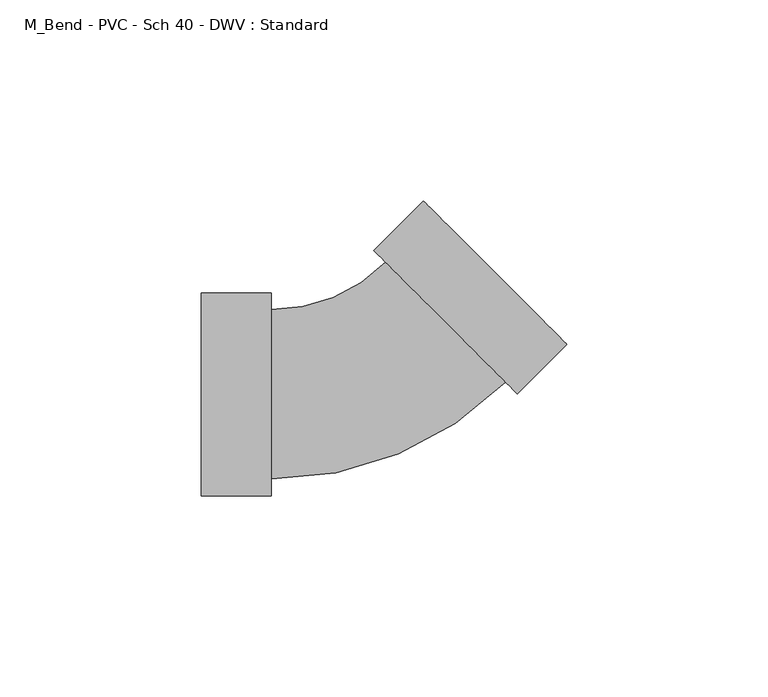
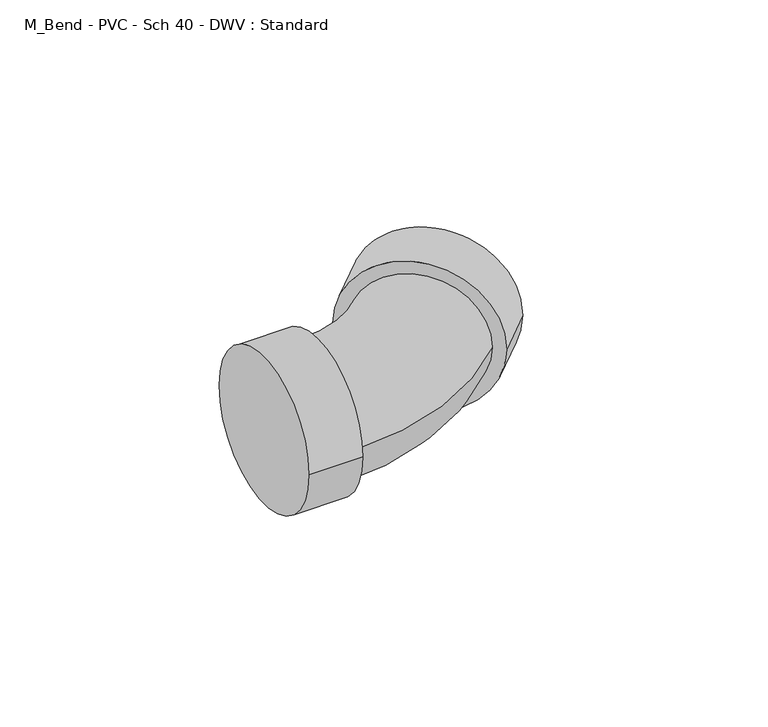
"""IFC4 building model written with IfcOpenShell, lengths in millimetres: pipe fitting geometry, M_Bend - PVC - Sch 40 - DWV : Standard."""

import ifcopenshell
import ifcopenshell.guid

model = None  # the IFC model being written
_history = None  # IfcOwnerHistory: only IFC2X3 demands one
_inside = {}  # id of a spatial element -> (the spatial element, [elements in it])
_under = {}  # id of a project, library or spatial element -> (it, [spatial elements below it])
_declared = {}  # id of a project -> (the project, [libraries it declares])
_typed = {}  # id of a type object -> (the type object, [elements of that type])
_made_of = {}  # id of a material, layer set ... -> (it, [elements and type objects made of it])


def new_model(schema):
    """Start an empty IFC model of exactly this schema.

    Asked for "IFC4X3", IfcOpenShell would pick the latest addendum, in which some entities
    have other attributes; the version numbers below select the first issue.
    IFC2X3 requires an IfcOwnerHistory on every rooted entity: one is made here for all.
    """
    global model, _history
    if schema == "IFC4X3":
        model = ifcopenshell.file(schema_version=(4, 3, 0, 0))
    else:
        model = ifcopenshell.file(schema=schema)
    _inside.clear()
    _under.clear()
    _declared.clear()
    _typed.clear()
    _made_of.clear()
    _history = None
    if model.schema == "IFC2X3":
        org = make("IfcOrganization", Name="unknown")
        user = make(
            "IfcPersonAndOrganization",
            ThePerson=make("IfcPerson", FamilyName="unknown"),
            TheOrganization=org,
        )
        app = make(
            "IfcApplication",
            ApplicationDeveloper=org,
            Version="unknown",
            ApplicationFullName="unknown",
            ApplicationIdentifier="unknown",
        )
        _history = make(
            "IfcOwnerHistory",
            OwningUser=user,
            OwningApplication=app,
            ChangeAction="ADDED",
            CreationDate=0,
        )
    return model


def make(cls, **values):
    """One entity of the class cls with the attributes given. An attribute that is None is left unset."""
    return model.create_entity(
        cls, **{name: value for name, value in values.items() if value is not None}
    )


def rooted(cls, **values):
    """An entity with a GlobalId (a new one), such as an element, a storey or a relation."""
    return make(cls, GlobalId=ifcopenshell.guid.new(), OwnerHistory=_history, **values)


def si_unit(unit_type, name, prefix=None):
    """IfcSIUnit, for example si_unit("LENGTHUNIT", "METRE", prefix="MILLI")."""
    return make("IfcSIUnit", UnitType=unit_type, Prefix=prefix, Name=name)


def assignment(units):
    """IfcUnitAssignment: the units of a project."""
    return None if units is None else make("IfcUnitAssignment", Units=units)


def point(xyz):
    """IfcCartesianPoint."""
    return None if xyz is None else make("IfcCartesianPoint", Coordinates=xyz)


def direction(xyz):
    """IfcDirection."""
    return None if xyz is None else make("IfcDirection", DirectionRatios=xyz)


def frame(location, z_axis=None, x_axis=None):
    """IfcAxis2Placement3D, a coordinate frame: its origin and axes. An axis left out is left unset."""
    return make(
        "IfcAxis2Placement3D",
        Location=point(location),
        Axis=direction(z_axis),
        RefDirection=direction(x_axis),
    )


def origin():
    """The frame at (0, 0, 0) with its axes left unset."""
    return frame((0.0, 0.0, 0.0))


def place(relative_to, where):
    """IfcLocalPlacement: puts the frame where relative to a parent placement (None: the world)."""
    return make(
        "IfcLocalPlacement", PlacementRelTo=relative_to, RelativePlacement=where
    )


def context(
    kind, dimensions, precision=None, world=None, true_north=None, identifier=None
):
    """IfcGeometricRepresentationContext, for example the 3D "Model" context."""
    return make(
        "IfcGeometricRepresentationContext",
        ContextIdentifier=identifier,
        ContextType=kind,
        CoordinateSpaceDimension=dimensions,
        Precision=precision,
        WorldCoordinateSystem=world,
        TrueNorth=true_north,
    )


def project(units=None, contexts=None):
    """IfcProject with its units and contexts."""
    return rooted(
        "IfcProject",
        Name="project",
        RepresentationContexts=contexts,
        UnitsInContext=assignment(units),
    )


def spatial(cls, under=None, at=None, **own):
    """A site, building, storey or space (cls), placed at a placement, below another one or the project."""
    s = rooted(cls, ObjectPlacement=at, **own)
    if under is not None:
        _under.setdefault(under.id(), (under, []))[1].append(s)
    return s


def circle_curve(where, radius):
    """IfcCircle in the frame where."""
    return make("IfcCircle", Position=where, Radius=radius)


def ellipse_curve(where, semi_axis1, semi_axis2):
    """IfcEllipse in the frame where."""
    return make(
        "IfcEllipse", Position=where, SemiAxis1=semi_axis1, SemiAxis2=semi_axis2
    )


def trimmed(basis, trim1, trim2, sense, master):
    """IfcTrimmedCurve: the piece of a basis curve between two trims."""
    return make(
        "IfcTrimmedCurve",
        BasisCurve=basis,
        Trim1=trim1,
        Trim2=trim2,
        SenseAgreement=sense,
        MasterRepresentation=master,
    )


def shape(context_of_items, identifier, shape_type, items):
    """IfcShapeRepresentation: the items that make up one representation, for example the "Body"."""
    return make(
        "IfcShapeRepresentation",
        ContextOfItems=context_of_items,
        RepresentationIdentifier=identifier,
        RepresentationType=shape_type,
        Items=items,
    )


def source(mapping_origin, context_of_items, identifier, shape_type, items):
    """IfcRepresentationMap: a shape defined once, which mapped items show again and again."""
    return make(
        "IfcRepresentationMap",
        MappingOrigin=mapping_origin,
        MappedRepresentation=shape(context_of_items, identifier, shape_type, items),
    )


def transform(
    local_origin,
    x_axis=None,
    y_axis=None,
    z_axis=None,
    scale=None,
    scale2=None,
    scale3=None,
    uniform=True,
):
    """IfcCartesianTransformationOperator3D, or its non-uniform kind. x_axis, y_axis, z_axis: its Axis1, 2, 3."""
    if uniform:
        return make(
            "IfcCartesianTransformationOperator3D",
            Axis1=direction(x_axis),
            Axis2=direction(y_axis),
            LocalOrigin=point(local_origin),
            Scale=scale,
            Axis3=direction(z_axis),
        )
    return make(
        "IfcCartesianTransformationOperator3DnonUniform",
        Axis1=direction(x_axis),
        Axis2=direction(y_axis),
        LocalOrigin=point(local_origin),
        Scale=scale,
        Axis3=direction(z_axis),
        Scale2=scale2,
        Scale3=scale3,
    )


def mapped(mapping_source, mapping_target):
    """IfcMappedItem: shows the shape of a source again, moved by a transform."""
    return make(
        "IfcMappedItem", MappingSource=mapping_source, MappingTarget=mapping_target
    )


def made_of(thing, what):
    """Note that an element or type object is made of a material, layer set ...; save() writes the relation."""
    if what is not None:
        _made_of.setdefault(what.id(), (what, []))[1].append(thing)
    return thing


def element(
    cls,
    number,
    at=None,
    inside=None,
    cuts=None,
    type_object=None,
    material=None,
    context=None,
    identifier="Body",
    shape_type=None,
    held_by="IfcProductDefinitionShape",
    body=None,
    shapes=None,
    **own,
):
    """One element of the class cls, such as IfcWall. Its Tag is "e" and its number.

    at: its placement. inside: the storey or other place that contains it. cuts: it is an
    opening in that element (IfcRelVoidsElement). A single representation is given by context,
    identifier, shape_type and body (its items); several are given by shapes. held_by: the class
    of the entity that holds the representations. save() writes the other relations.
    """
    e = rooted(cls, Tag="e%d" % number, ObjectPlacement=at, **own)
    if body is not None:
        shapes = [shape(context, identifier, shape_type, body)]
    if shapes is not None:
        e.Representation = make(held_by, Representations=shapes)
    if inside is not None:
        _inside.setdefault(inside.id(), (inside, []))[1].append(e)
    if cuts is not None:
        rooted(
            "IfcRelVoidsElement", RelatingBuildingElement=cuts, RelatedOpeningElement=e
        )
    if type_object is not None:
        _typed.setdefault(type_object.id(), (type_object, []))[1].append(e)
    return made_of(e, material)


def aggregate(whole, parts):
    """IfcRelAggregates: a whole, such as a stair, and the parts it consists of."""
    return rooted("IfcRelAggregates", RelatingObject=whole, RelatedObjects=parts)


def save(model, path):
    """Write the relations noted so far, then the file.

    IfcRelAggregates (storeys below a building ...), IfcRelContainedInSpatialStructure (elements
    in a storey), IfcRelDefinesByType, IfcRelAssociatesMaterial and IfcRelDeclares: one each for
    every whole, place, type object, material and project.
    """
    for whole, parts in _under.values():
        aggregate(whole, parts)
    for where, things in _inside.values():
        rooted(
            "IfcRelContainedInSpatialStructure",
            RelatedElements=things,
            RelatingStructure=where,
        )
    for kind, things in _typed.values():
        rooted("IfcRelDefinesByType", RelatedObjects=things, RelatingType=kind)
    for what, things in _made_of.values():
        rooted("IfcRelAssociatesMaterial", RelatedObjects=things, RelatingMaterial=what)
    for by, libraries in _declared.values():
        rooted("IfcRelDeclares", RelatingContext=by, RelatedDefinitions=libraries)
    model.write(path)


def plane_surface(at):
    """IfcPlane: the flat surface through the origin of the frame at, square to its z axis."""
    return make("IfcPlane", Position=at)


def cylinder_surface(at, radius):
    """IfcCylindricalSurface: all points at the distance radius from the z axis of the frame at."""
    return make("IfcCylindricalSurface", Position=at, Radius=radius)


def revolved_surface(curve, axis_point, axis_direction):
    """IfcSurfaceOfRevolution: the curve turned about the line through axis_point along axis_direction."""
    return make(
        "IfcSurfaceOfRevolution",
        SweptCurve=make("IfcArbitraryOpenProfileDef", ProfileType="CURVE", Curve=curve),
        AxisPosition=make("IfcAxis1Placement", Location=point(axis_point), Axis=direction(axis_direction)),
    )


def advanced_brep(points, edges, surfaces, faces):
    """IfcAdvancedBrep: a solid bounded by faces that lie on surfaces and meet in shared edges.

    An edge is (start, end): straight between two places in points (the first is 0);
    or (start, end, curve); or (start, end, curve, False) where it runs against its curve.
    A face is (place in surfaces, loops), or (place, loops, False) where it looks against
    its surface's normal. A loop lists edges by number (the first is 1), with a minus sign
    where the edge is run from its end to its start. The first loop is the outer one.
    """
    corners = [point(p) for p in points]
    vertices = [make("IfcVertexPoint", VertexGeometry=c) for c in corners]
    made = []
    for start, end, *more in edges:
        made.append(
            make(
                "IfcEdgeCurve",
                EdgeStart=vertices[start],
                EdgeEnd=vertices[end],
                EdgeGeometry=more[0] if more else make("IfcPolyline", Points=[corners[start], corners[end]]),
                SameSense=more[1] if len(more) > 1 else True,
            )
        )
    hull = []
    for where, loops, *sense in faces:
        bounds = []
        for j, loop in enumerate(loops):
            ring = [make("IfcOrientedEdge", EdgeElement=made[abs(k) - 1], Orientation=k > 0) for k in loop]
            bounds.append(
                make(
                    "IfcFaceOuterBound" if j == 0 else "IfcFaceBound",
                    Bound=make("IfcEdgeLoop", EdgeList=ring),
                    Orientation=True,
                )
            )
        hull.append(make("IfcAdvancedFace", Bounds=bounds, FaceSurface=surfaces[where], SameSense=sense[0] if sense else True))
    return make("IfcAdvancedBrep", Outer=make("IfcClosedShell", CfsFaces=hull))


def m_bend_pvc_sch_40_dwv_standard_980e5ff7(model_context):
    return source(origin(), model_context, "Body", "AdvancedBrep", [
        advanced_brep(
        [(-42.8498, -25.2349, 0.0), (-42.8498, 25.2349, 0.0), (-25.4, -25.2349, 0.0), (-25.4, 25.2349, 0.0), (-25.4, -21.082, 0.0), (-25.4, 21.082, 0.0), (3.0555973, 32.8675227, 0.0), (32.8679519, 3.0509769, 0.0), (35.8042893, 0.1142267, 0.0), (0.1192599, 35.8042729, 0.0), (48.1440284, 12.4522313, 0.0), (12.4589991, 48.1422775, 0.0)],
        [
            (0, 1, circle_curve(frame((-42.8498, 0.0, 0.0), z_axis=(-1.0, 0.0, 0.0), x_axis=(0.0, 1.0, 0.0)), 25.2349)),
            (1, 0, circle_curve(frame((-42.8498, 0.0, 0.0), z_axis=(-1.0, 0.0, 0.0), x_axis=(0.0, 1.0, 0.0)), 25.2349)),
            (2, 3, circle_curve(frame((-25.4, 0.0, 0.0), z_axis=(1.0, 0.0, 0.0), x_axis=(0.0, 1.0, 0.0)), 25.2349)),
            (3, 2, circle_curve(frame((-25.4, 0.0, 0.0), z_axis=(1.0, 0.0, 0.0), x_axis=(0.0, 1.0, 0.0)), 25.2349)),
            (4, 5, circle_curve(frame((-25.4, 0.0, 0.0), z_axis=(-1.0, 0.0, 0.0), x_axis=(0.0, 1.0, 0.0)), 21.082)),
            (5, 4, circle_curve(frame((-25.4, 0.0, 0.0), z_axis=(-1.0, 0.0, 0.0), x_axis=(0.0, 1.0, 0.0)), 21.082)),
            (0, 2),
            (3, 1),
            (6, 5, circle_curve(frame((-25.4, 61.3271204, 0.0), z_axis=(0.0, 0.0, -1.0), x_axis=(0.0, -1.0, 0.0)), 40.2451204)),
            (4, 7, circle_curve(frame((-25.4, 61.3271204, 0.0), z_axis=(0.0, 0.0, 1.0), x_axis=(0.0, -1.0, 0.0)), 82.4091204)),
            (7, 6, circle_curve(frame((17.9617746, 17.9592498, 0.0), z_axis=(-0.7071564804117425, -0.7070570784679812, 0.0), x_axis=(-0.7070570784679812, 0.7071564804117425, 0.0)), 21.082)),
            (6, 7, circle_curve(frame((17.9617746, 17.9592498, 0.0), z_axis=(-0.7071564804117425, -0.7070570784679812, 0.0), x_axis=(-0.7070570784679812, 0.7071564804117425, 0.0)), 21.082)),
            (8, 9, circle_curve(frame((17.9617746, 17.9592498, 0.0), z_axis=(-0.7071564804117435, -0.7070570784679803, 0.0), x_axis=(-0.7070570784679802, 0.7071564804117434, 0.0)), 25.2349)),
            (9, 8, circle_curve(frame((17.9617746, 17.9592498, 0.0), z_axis=(-0.7071564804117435, -0.7070570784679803, 0.0), x_axis=(-0.7070570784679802, 0.7071564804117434, 0.0)), 25.2349)),
            (10, 11, circle_curve(frame((30.3015138, 30.2972544, 0.0), z_axis=(0.7071564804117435, 0.7070570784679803, 0.0), x_axis=(-0.7070570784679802, 0.7071564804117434, 0.0)), 25.2349)),
            (11, 10, circle_curve(frame((30.3015138, 30.2972544, 0.0), z_axis=(0.7071564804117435, 0.7070570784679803, 0.0), x_axis=(-0.7070570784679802, 0.7071564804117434, 0.0)), 25.2349)),
            (8, 10),
            (11, 9),
        ],
        [
            plane_surface(frame((-42.8498, 0.0, 0.0), z_axis=(-1.0, 0.0, 0.0), x_axis=(0.0, 0.0, 1.0))),
            plane_surface(frame((-25.4, 0.0, 0.0), z_axis=(1.0, 0.0, 0.0), x_axis=(0.0, 0.0, 1.0))),
            cylinder_surface(frame((-42.8498, 0.0, 0.0), z_axis=(-1.0, 0.0, 0.0), x_axis=(0.0, 1.0, 0.0)), 25.2349),
            revolved_surface(trimmed(ellipse_curve(frame((-25.4, 0.0, 0.0), z_axis=(-1.0, 0.0, 0.0), x_axis=(0.0, 1.0, 0.0)), 21.082, 21.082), [point((-25.4, -21.082, 0.0))], [point((-25.4, 21.082, 0.0))], True, "CARTESIAN"), (-25.4, 61.3271204, 0.0), (0.0, 0.0, 1.0)),
            revolved_surface(trimmed(ellipse_curve(frame((-25.4, 0.0, 0.0), z_axis=(-1.0, 0.0, 0.0), x_axis=(0.0, 1.0, 0.0)), 21.082, 21.082), [point((-25.4, 21.082, 0.0))], [point((-25.4, -21.082, 0.0))], True, "CARTESIAN"), (-25.4, 61.3271204, 0.0), (0.0, 0.0, 1.0)),
            plane_surface(frame((17.9617746, 17.9592498, 0.0), z_axis=(-0.7071564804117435, -0.7070570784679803, 0.0), x_axis=(0.0, 0.0, 1.0))),
            plane_surface(frame((30.3015138, 30.2972544, 0.0), z_axis=(0.7071564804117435, 0.7070570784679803, 0.0), x_axis=(0.0, 0.0, 1.0))),
            cylinder_surface(frame((17.9617746, 17.9592498, 0.0), z_axis=(-0.7071564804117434, -0.7070570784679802, 0.0), x_axis=(-0.7070570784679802, 0.7071564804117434, 0.0)), 25.2349),
        ],
        [
            (0, [[1, 2]]),
            (1, [[3, 4], [5, 6]]),
            (2, [[-1, 7, -4, 8]]),
            (2, [[-2, -8, -3, -7]]),
            (3, [[9, -5, 10, 11]]),
            (4, [[-9, 12, -10, -6]]),
            (5, [[13, 14], [-11, -12]]),
            (6, [[15, 16]]),
            (7, [[-13, 17, -16, 18]]),
            (7, [[-14, -18, -15, -17]]),
        ],
    ),
    ])


if __name__ == "__main__":
    model = new_model("IFC4")
    model_context = context("Model", 3, world=origin())
    ifc_project = project(units=[si_unit("LENGTHUNIT", "METRE", prefix="MILLI")], contexts=[model_context])
    site = spatial("IfcSite", under=ifc_project)
    building = spatial("IfcBuilding", under=site)
    placement = place(None, origin())
    m_bend_pvc_sch_40_dwv_standard_shape = m_bend_pvc_sch_40_dwv_standard_980e5ff7(model_context)
    element("IfcPipeFitting", 1, ObjectType="M_Bend - PVC - Sch 40 - DWV : Standard", at=placement, inside=building, context=model_context, shape_type="MappedRepresentation", body=[
        mapped(m_bend_pvc_sch_40_dwv_standard_shape, transform((0.0, 0.0, 0.0), x_axis=(1.0, 0.0, 0.0), y_axis=(0.0, 1.0, 0.0), z_axis=(0.0, 0.0, 1.0))),
    ])
    save(model, "model.ifc")
